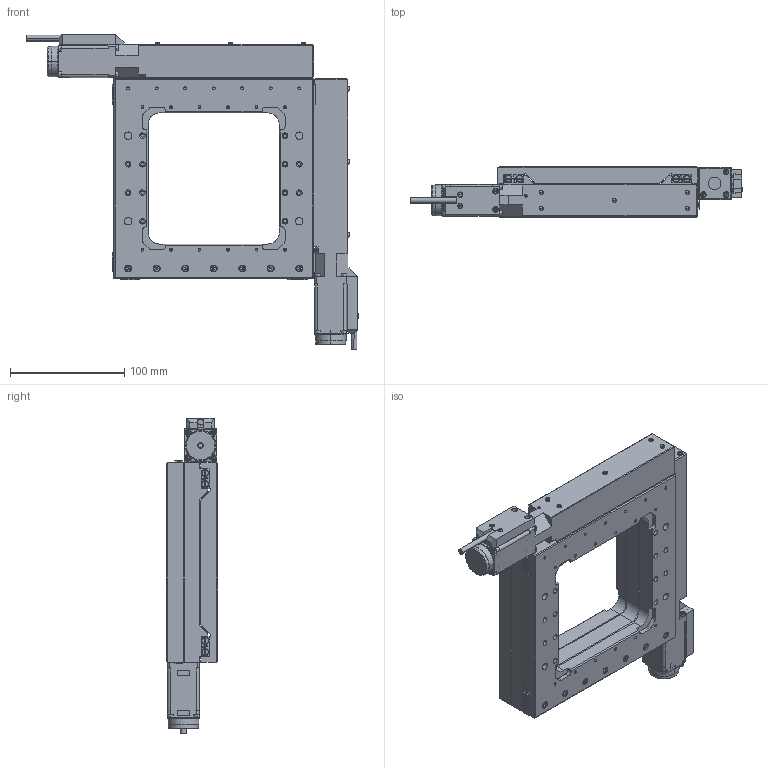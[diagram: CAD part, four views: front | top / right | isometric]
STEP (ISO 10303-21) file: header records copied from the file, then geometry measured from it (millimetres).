
FILE_DESCRIPTION (( 'STEP AP203' ), '1' );
FILE_NAME ('8MTF-102LS05.STEP', '2010-02-03T12:46:50', ( 'Darius' ), ( '' ), 'SwSTEP 2.0', 'SolidWorks 2003240', '' );
FILE_SCHEMA (( 'CONFIG_CONTROL_DESIGN' ));
Length unit declared in the file: millimetre
Products named in the file (1): 8MTF-102LS05
Bounding box: 291.09 x 45 x 276.75 mm (x, y, z)
Volume: 1118393.9 mm3; surface area: 236517.6 mm2
Topology: 1 solids, 49 shells, 2647 faces, 6828 edges, 4398 vertices
Faces by surface type: plane 1284, cylinder 784, cone 323, bspline 256
Entity records: 84970 total; most frequent: CARTESIAN_POINT 21557, ORIENTED_EDGE 13436, DIRECTION 12666, EDGE_CURVE 6718, AXIS2_PLACEMENT_3D 4503, VERTEX_POINT 4398, VECTOR 3660, LINE 3660
